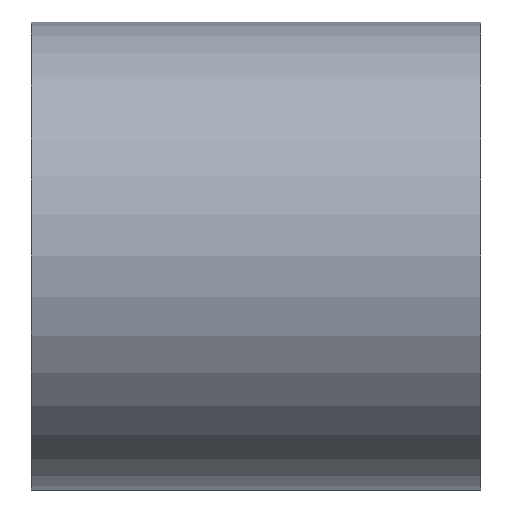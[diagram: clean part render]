
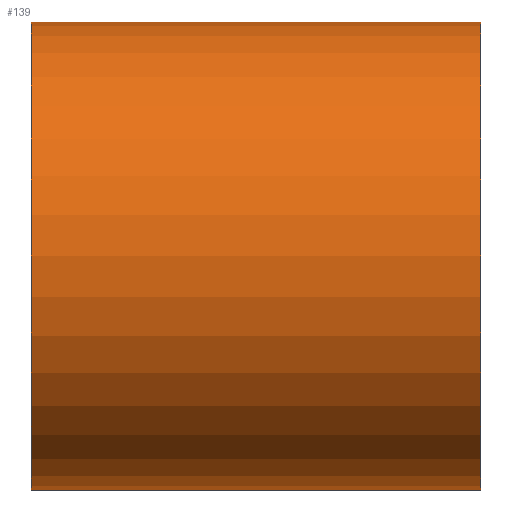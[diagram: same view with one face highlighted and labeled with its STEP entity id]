
A CAD part, left-side view. The second image highlights one B-rep face of the part: STEP entity #139.
In plain terms, the highlighted cylindrical face has radius 3.2 mm (diameter 6.401 mm), a partial arc.
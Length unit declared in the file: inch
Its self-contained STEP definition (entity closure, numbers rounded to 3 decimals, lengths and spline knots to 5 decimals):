
#2 = EDGE_CURVE ( 'NONE', #3, #72, #307, .T. ) ;
#3 = VERTEX_POINT ( 'NONE', #286 ) ;
#5 = VERTEX_POINT ( 'NONE', #158 ) ;
#30 = CARTESIAN_POINT ( 'NONE',  ( 0., 0., 0.126 ) ) ;
#39 = DIRECTION ( 'NONE',  ( 0., 1., 0. ) ) ;
#41 = DIRECTION ( 'NONE',  ( 0., 0., 1. ) ) ;
#51 = CYLINDRICAL_SURFACE ( 'NONE', #131, 0.126 ) ;
#72 = VERTEX_POINT ( 'NONE', #30 ) ;
#84 = CARTESIAN_POINT ( 'NONE',  ( 0., 0., -0.126 ) ) ;
#105 = VECTOR ( 'NONE', #209, 39.37008 ) ;
#131 = AXIS2_PLACEMENT_3D ( 'NONE', #290, #240, #218 ) ;
#132 = FACE_OUTER_BOUND ( 'NONE', #200, .T. ) ;
#134 = CIRCLE ( 'NONE', #279, 0.126 ) ;
#139 = ADVANCED_FACE ( 'NONE', ( #132 ), #51, .T. ) ;
#145 = DIRECTION ( 'NONE',  ( 0., 0., 1. ) ) ;
#158 = CARTESIAN_POINT ( 'NONE',  ( 0., 0.242, -0.126 ) ) ;
#166 = CARTESIAN_POINT ( 'NONE',  ( 0., 0.242, 0. ) ) ;
#183 = VERTEX_POINT ( 'NONE', #84 ) ;
#199 = VECTOR ( 'NONE', #311, 39.37008 ) ;
#200 = EDGE_LOOP ( 'NONE', ( #208, #246, #217, #272 ) ) ;
#208 = ORIENTED_EDGE ( 'NONE', *, *, #2, .F. ) ;
#209 = DIRECTION ( 'NONE',  ( 0., -1., 0. ) ) ;
#215 = EDGE_CURVE ( 'NONE', #5, #3, #226, .T. ) ;
#217 = ORIENTED_EDGE ( 'NONE', *, *, #223, .T. ) ;
#218 = DIRECTION ( 'NONE',  ( 0., 0., -1. ) ) ;
#223 = EDGE_CURVE ( 'NONE', #5, #183, #309, .T. ) ;
#226 = CIRCLE ( 'NONE', #304, 0.126 ) ;
#240 = DIRECTION ( 'NONE',  ( 0., -1., 0. ) ) ;
#242 = DIRECTION ( 'NONE',  ( 0., 1., 0. ) ) ;
#246 = ORIENTED_EDGE ( 'NONE', *, *, #215, .F. ) ;
#272 = ORIENTED_EDGE ( 'NONE', *, *, #284, .T. ) ;
#279 = AXIS2_PLACEMENT_3D ( 'NONE', #297, #39, #41 ) ;
#284 = EDGE_CURVE ( 'NONE', #183, #72, #134, .T. ) ;
#286 = CARTESIAN_POINT ( 'NONE',  ( 0., 0.242, 0.126 ) ) ;
#290 = CARTESIAN_POINT ( 'NONE',  ( 0., 0.242, 0. ) ) ;
#297 = CARTESIAN_POINT ( 'NONE',  ( 0., 0., 0. ) ) ;
#304 = AXIS2_PLACEMENT_3D ( 'NONE', #166, #242, #145 ) ;
#307 = LINE ( 'NONE', #308, #105 ) ;
#308 = CARTESIAN_POINT ( 'NONE',  ( 0., 0.242, 0.126 ) ) ;
#309 = LINE ( 'NONE', #318, #199 ) ;
#311 = DIRECTION ( 'NONE',  ( 0., -1., 0. ) ) ;
#318 = CARTESIAN_POINT ( 'NONE',  ( 0., 0.242, -0.126 ) ) ;
